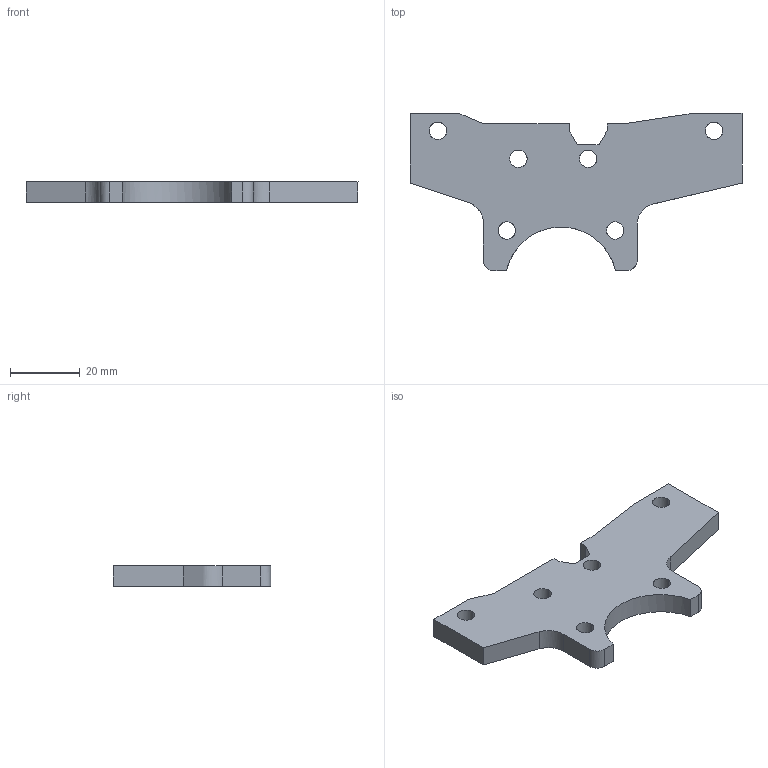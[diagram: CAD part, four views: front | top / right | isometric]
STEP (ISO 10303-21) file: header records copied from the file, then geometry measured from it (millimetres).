
FILE_DESCRIPTION(/* description */ (''),/* implementation_level */ '2;1');
FILE_NAME(/* name */ '7.x-cart#7.5#la-mpk-9',/* time_stamp */ '2014-12-01T20:17:36+01:00',/* author */ (''),/* organization */ (''),/* preprocessor_version */ 'ST-DEVELOPER v14',/* originating_system */ '',/* authorisation */ '');
FILE_SCHEMA (('AUTOMOTIVE_DESIGN'));
Length unit declared in the file: millimetre
Products named in the file (1): Document
Bounding box: 95 x 45 x 6 mm (x, y, z)
Volume: 15353.8 mm3; surface area: 7388.2 mm2
Topology: 1 solids, 1 shells, 38 faces, 108 edges, 72 vertices
Faces by surface type: bspline 27, plane 11
Entity records: 2590 total; most frequent: CARTESIAN_POINT 1259, ORIENTED_EDGE 216, PCURVE 216, DEFINITIONAL_REPRESENTATION 216, B_SPLINE_CURVE_WITH_KNOTS 190, SURFACE_CURVE 108, EDGE_CURVE 108, VERTEX_POINT 72
